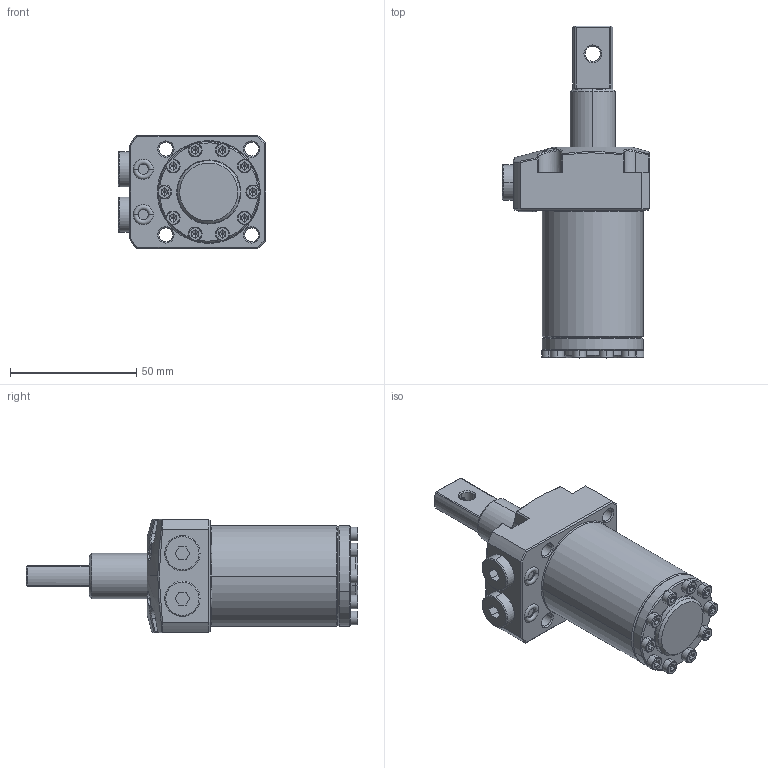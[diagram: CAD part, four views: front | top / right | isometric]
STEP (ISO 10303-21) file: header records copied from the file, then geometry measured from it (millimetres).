
FILE_DESCRIPTION((''),'2;1');
FILE_NAME('SIMP_GENERIC_SWING_CYD_40_PIN_ASM','2023-04-16T13:35:29',('Design 2'),(''),'CREO PARAMETRIC BY PTC INC, 2020053','CREO PARAMETRIC BY PTC INC, 2020053','');
FILE_SCHEMA(('CONFIG_CONTROL_DESIGN'));
Length unit declared in the file: millimetre
Products named in the file (13): BODY___; BODY_TOP_FLG____ASM; PIN_PISTON; PISTON_ASM____ASM; SWINGER_ARM___; SWINGER_ARM_ASM____ASM; 1_1_2_-___; 2_1_2_-___; HALDER_SEALING_PLUG_ASM; ORING-5X1-5SS_; ISHCS03X10_; G-1-8-CLOSE_PLUGE_; SIMP_GENERIC_SWING_CYD_40_PIN_ASM
Assembly tree (24 placements, depth 3):
  SIMP_GENERIC_SWING_CYD_40_PIN_ASM
    BODY_TOP_FLG____ASM
      BODY___
    PISTON_ASM____ASM
      PIN_PISTON
    SWINGER_ARM_ASM____ASM
      SWINGER_ARM___
    HALDER_SEALING_PLUG_ASM  x2
      1_1_2_-___
      2_1_2_-___
    ORING-5X1-5SS_  x2
    ISHCS03X10_  x10
    G-1-8-CLOSE_PLUGE_  x2
Bounding box: 58.3 x 131.6 x 45 mm (x, y, z)
Volume: 128357.1 mm3; surface area: 35413.5 mm2
Topology: 21 solids, 21 shells, 798 faces, 1774 edges, 1025 vertices
Faces by surface type: plane 242, cylinder 242, cone 230, bspline 42, torus 36, sphere 6
Entity records: 17350 total; most frequent: CARTESIAN_POINT 7124, DIRECTION 2082, ORIENTED_EDGE 2040, EDGE_CURVE 1020, AXIS2_PLACEMENT_3D 814, VERTEX_POINT 611, EDGE_LOOP 503, VECTOR 454
